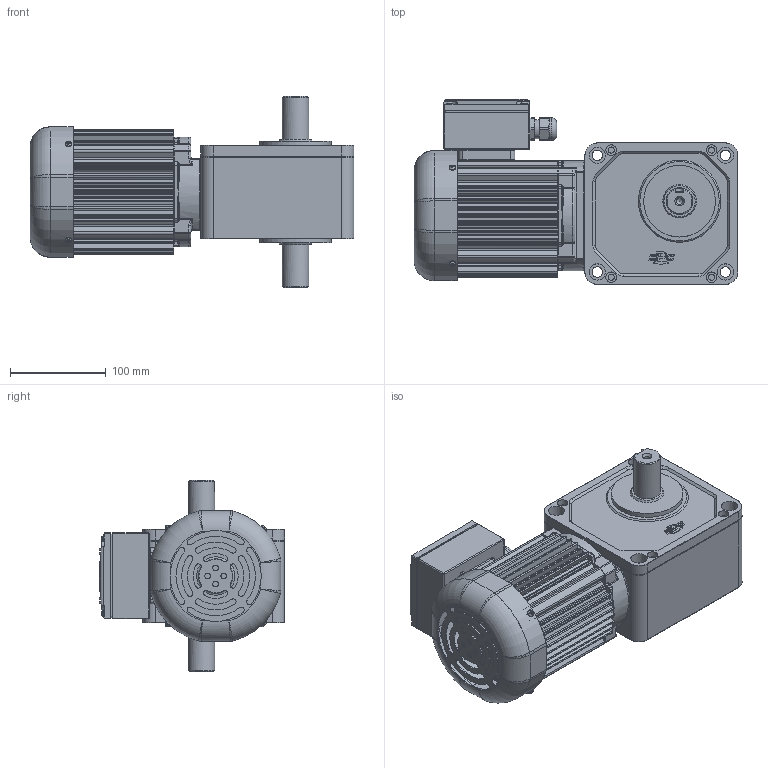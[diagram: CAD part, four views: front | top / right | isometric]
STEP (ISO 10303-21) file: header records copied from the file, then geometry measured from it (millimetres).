
FILE_DESCRIPTION(/* description */ (''),/* implementation_level */ '2;1');
FILE_NAME(/* name */ 'Z:\동력 3D 파일\PCS28B_0.2kW_3D.stp',/* time_stamp */ '2021-11-09T10:47:32+09:00',/* author */ ('jaebok'),/* organization */ (''),/* preprocessor_version */ 'ST-DEVELOPER v18.1',/* originating_system */ 'Autodesk Inventor 2022',/* authorisation */ '');
FILE_SCHEMA (('AUTOMOTIVE_DESIGN { 1 0 10303 214 3 1 1 }'));
Products named in the file (1): 부품41
Bounding box: 338.5 x 193.5 x 200 mm (x, y, z)
Volume: 1859858.4 mm3; surface area: 532195.7 mm2
Topology: 1 solids, 32 shells, 1872 faces, 4832 edges, 3062 vertices
Faces by surface type: plane 855, cylinder 671, torus 129, cone 103, bspline 98, sphere 16
Full cylindrical faces by diameter (mm): 3.242 x9, 3.25 x1, 3.6 x4, 4 x21, 5 x13, 5.386 x4, 6 x8, 6.5 x4, 6.647 x2, 7 x12, 8 x1, 10 x1, 11 x8, 12.5 x1, 15 x1, 17 x12, 20 x2, 21 x1, 23.6 x1, 25 x1, 27 x1, 28 x2, 34 x1, 35 x2, 50 x1, 50.562 x1, 68 x2, 73 x2, 75 x2, 101 x1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
Entity records: 63698 total; most frequent: CARTESIAN_POINT 15704, DIRECTION 9849, ORIENTED_EDGE 9564, EDGE_CURVE 4782, AXIS2_PLACEMENT_3D 3726, VERTEX_POINT 3062, LINE 2397, VECTOR 2397
